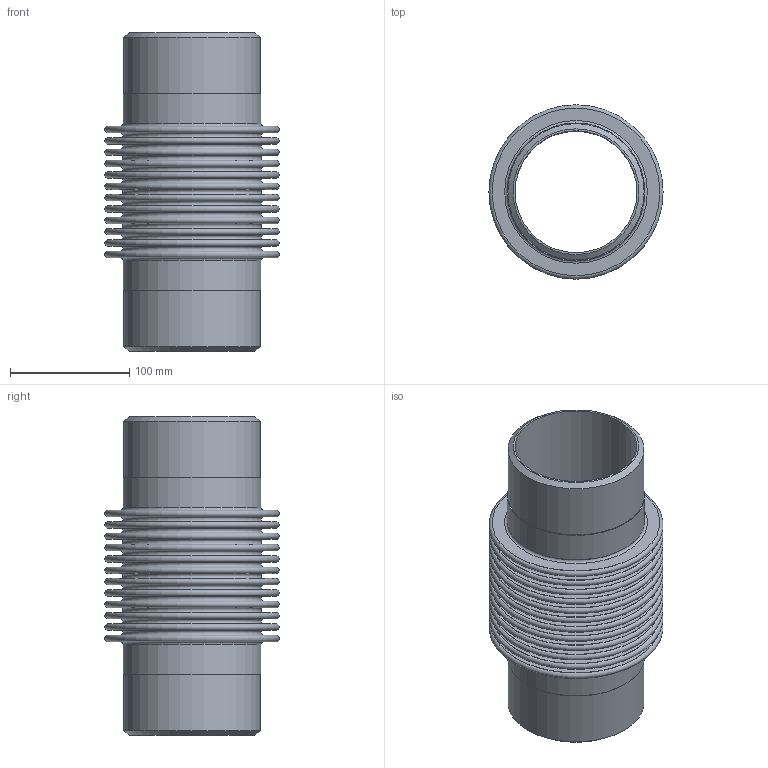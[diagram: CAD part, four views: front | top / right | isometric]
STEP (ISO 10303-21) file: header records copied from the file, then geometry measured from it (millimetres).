
FILE_DESCRIPTION(/* description */ ('EXPANSION JOINT,SINGLE, WELD ENDS,4 INCH NOMINAL'),/* implementation_level */ '2;1');
FILE_NAME(/* name */ 'ASSEMBLY US-4-12-85L.stp',/* time_stamp */ '2026-07-28T15:46:00-05:00',/* author */ ('jorgef'),/* organization */ (''),/* preprocessor_version */ 'ST-DEVELOPER v20.1',/* originating_system */ 'Autodesk Inventor 2026',/* authorisation */ '');
FILE_SCHEMA (('AUTOMOTIVE_DESIGN { 1 0 10303 214 3 1 1 }'));
Length unit declared in the file: inch
Products named in the file (3): ASSEMBLY  US-4-12-85L; STOCK BELLOW - US-4-12-85L; PIPE- US-4-12-85L
Assembly tree (3 placements, depth 2):
  ASSEMBLY  US-4-12-85L
    STOCK BELLOW - US-4-12-85L
    PIPE- US-4-12-85L  x2
Bounding box: 146.05 x 146.05 x 266.7 mm (x, y, z)
Volume: 425587.1 mm3; surface area: 501249 mm2
Topology: 5 solids, 5 shells, 118 faces, 180 edges, 121 vertices
Faces by surface type: plane 58, torus 50, cylinder 8, cone 2
Full cylindrical faces by diameter (mm): 102.26 x2, 114.3 x4, 115.519 x2
Entity records: 2769 total; most frequent: DIRECTION 573, CARTESIAN_POINT 405, ORIENTED_EDGE 342, AXIS2_PLACEMENT_3D 283, EDGE_CURVE 171, EDGE_LOOP 169, CIRCLE 164, VERTEX_POINT 114
